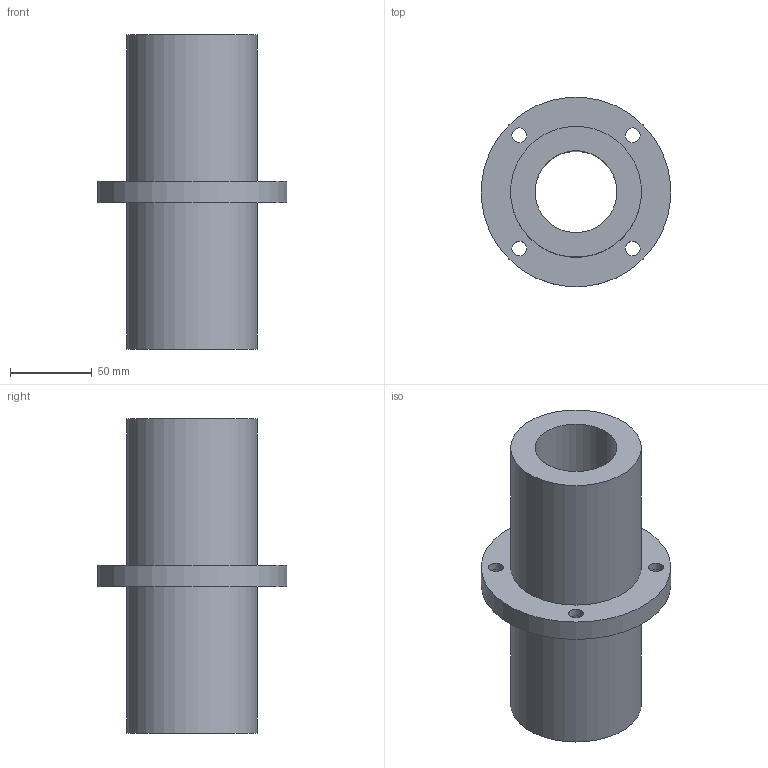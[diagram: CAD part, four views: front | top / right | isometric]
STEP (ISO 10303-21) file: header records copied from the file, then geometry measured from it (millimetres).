
FILE_DESCRIPTION(/* description */ (''),/* implementation_level */ '2;1');
FILE_NAME(/* name */ 'LMFM50LUU',/* time_stamp */ '2019-07-03T11:01:30+02:00',/* author */ ('VĂ©gh MĂˇtĂ©'),/* organization */ ('Bearing Kft'),/* preprocessor_version */ 'ST-DEVELOPER v16.7',/* originating_system */ 'DEX',/* authorisation */ $);
FILE_SCHEMA (('AUTOMOTIVE_DESIGN {1 0 10303 214 3 1 1}'));
Length unit declared in the file: millimetre
Products named in the file (1): LMFM50LUU
Bounding box: 115.56 x 115.56 x 192 mm (x, y, z)
Volume: 653900.6 mm3; surface area: 98609.1 mm2
Topology: 1 solids, 1 shells, 341 faces, 859 edges, 574 vertices
Faces by surface type: plane 268, bspline 59, cylinder 14
Full cylindrical faces by diameter (mm): 9 x4, 14 x4, 50 x1, 80 x2, 116 x1
Entity records: 13374 total; most frequent: CARTESIAN_POINT 5567, ORIENTED_EDGE 1680, DIRECTION 1316, EDGE_CURVE 840, LINE 694, VECTOR 694, VERTEX_POINT 570, EDGE_LOOP 420
